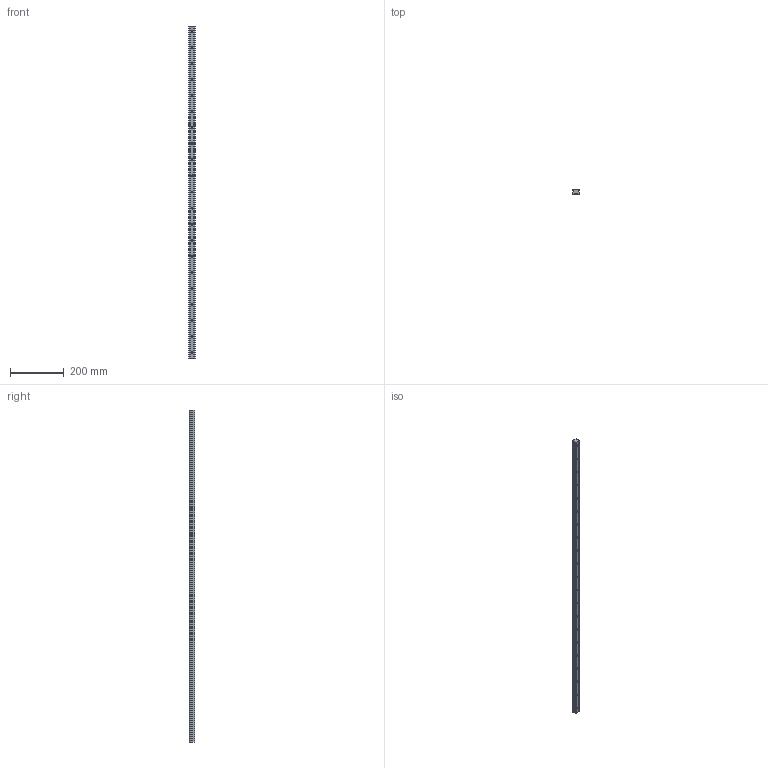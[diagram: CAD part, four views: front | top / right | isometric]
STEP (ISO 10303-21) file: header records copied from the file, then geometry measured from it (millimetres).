
FILE_DESCRIPTION (( 'STEP AP203' ), '1' );
FILE_NAME ('L1016.BL25-1240.step', '2019-06-12T12:07:07', ( '' ), ( '' ), 'SwSTEP 2.0', 'SolidWorks 2017', '' );
FILE_SCHEMA (( 'CONFIG_CONTROL_DESIGN' ));
Length unit declared in the file: millimetre
Products named in the file (1): L1016.BL25-1240
Bounding box: 23 x 19.2 x 1240 mm (x, y, z)
Volume: 456724.4 mm3; surface area: 117859.2 mm2
Topology: 1 solids, 1 shells, 131 faces, 324 edges, 216 vertices
Faces by surface type: cylinder 88, plane 43
Entity records: 4135 total; most frequent: DIRECTION 764, CARTESIAN_POINT 672, ORIENTED_EDGE 648, EDGE_CURVE 324, AXIS2_PLACEMENT_3D 308, VERTEX_POINT 216, EDGE_LOOP 194, CIRCLE 176
